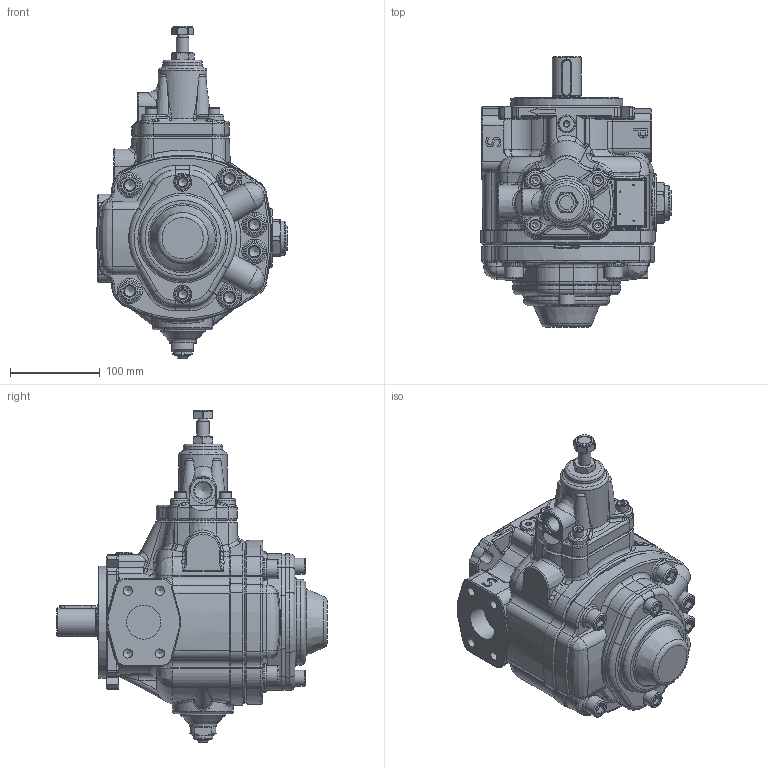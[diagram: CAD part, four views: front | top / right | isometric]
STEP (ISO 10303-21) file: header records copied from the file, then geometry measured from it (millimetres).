
FILE_DESCRIPTION(/* description */ (''),/* implementation_level */ '2;1');
FILE_NAME(/* name */ 'W:\Tecnico\Archivio\Berarma\Dimensioni Pompe\3D Export\Montaggio 3D semplificato\PLP-PHP 2\PLP 2 - A.stp',/* time_stamp */ '2018-10-08T11:36:49+02:00',/* author */ ('marcop'),/* organization */ (''),/* preprocessor_version */ 'ST-DEVELOPER v17',/* originating_system */ 'Autodesk Inventor 2018',/* authorisation */ '');
FILE_SCHEMA (('AUTOMOTIVE_DESIGN { 1 0 10303 214 3 1 1 }'));
Products named in the file (1): PLP - PHP 2_Shrinkwrap_1
Bounding box: 212.17 x 301.5 x 370.1 mm (x, y, z)
Volume: 4578415.8 mm3; surface area: 440073.2 mm2
Topology: 2 solids, 2 shells, 1744 faces, 4386 edges, 2697 vertices
Faces by surface type: plane 511, cylinder 428, bspline 378, torus 211, cone 181, sphere 35
Full cylindrical faces by diameter (mm): 1.7 x4, 2.5 x3, 8 x1, 8.376 x4, 10 x1, 10.106 x4, 12 x3, 13 x4, 14 x2, 15.2 x1, 18 x2, 18.631 x1, 19 x1, 20 x2, 21 x7, 23 x1, 25 x7, 28 x2, 30 x3, 31.5 x1, 32 x1, 35 x1, 38 x3, 40 x4, 44 x5, 44.2 x1, 47 x1, 47.75 x1, 48.5 x1, 50 x2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
Entity records: 65769 total; most frequent: CARTESIAN_POINT 24388, ORIENTED_EDGE 8674, DIRECTION 7864, EDGE_CURVE 4337, AXIS2_PLACEMENT_3D 3191, VERTEX_POINT 2697, EDGE_LOOP 1848, CIRCLE 1766
